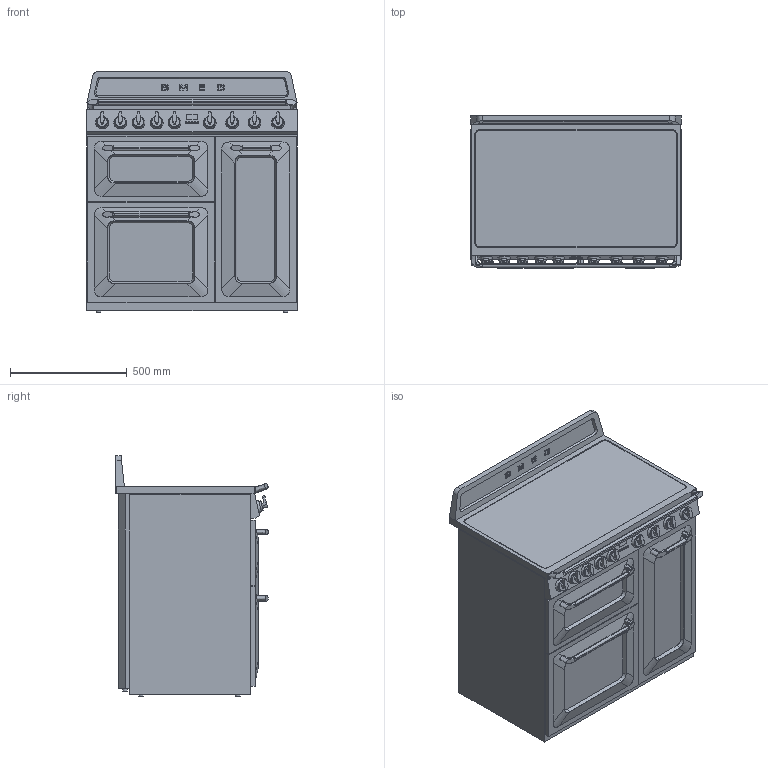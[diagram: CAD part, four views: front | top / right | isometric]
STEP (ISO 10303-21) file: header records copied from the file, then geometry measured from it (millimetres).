
FILE_DESCRIPTION(/* description */ ('Unknown'),/* implementation_level */ '2;1');
FILE_NAME(/* name */ 'TR93IBL2',/* time_stamp */ '2025-04-15T10:34:58+02:00',/* author */ ('Unknown'),/* organization */ ('Unknown'),/* preprocessor_version */ 'ST-DEVELOPER v16.7',/* originating_system */ 'DEX',/* authorisation */ $);
FILE_SCHEMA (('AUTOMOTIVE_DESIGN {1 0 10303 214 3 1 1}'));
Length unit declared in the file: millimetre
Products named in the file (1): TR93IBL2
Bounding box: 900 x 651.65 x 1032 mm (x, y, z)
Volume: 466273149 mm3; surface area: 6579944.1 mm2
Topology: 5 solids, 20 shells, 806 faces, 1984 edges, 1262 vertices
Faces by surface type: plane 403, cylinder 197, bspline 167, cone 29, sphere 5, torus 5
Full cylindrical faces by diameter (mm): 3.9 x5, 5 x13, 8 x5, 9 x5, 20 x5, 43.084 x9
Entity records: 36157 total; most frequent: CARTESIAN_POINT 13207, ORIENTED_EDGE 3792, DIRECTION 3063, EDGE_CURVE 1896, VERTEX_POINT 1235, AXIS2_PLACEMENT_3D 1114, EDGE_LOOP 929, FACE_BOUND 929
